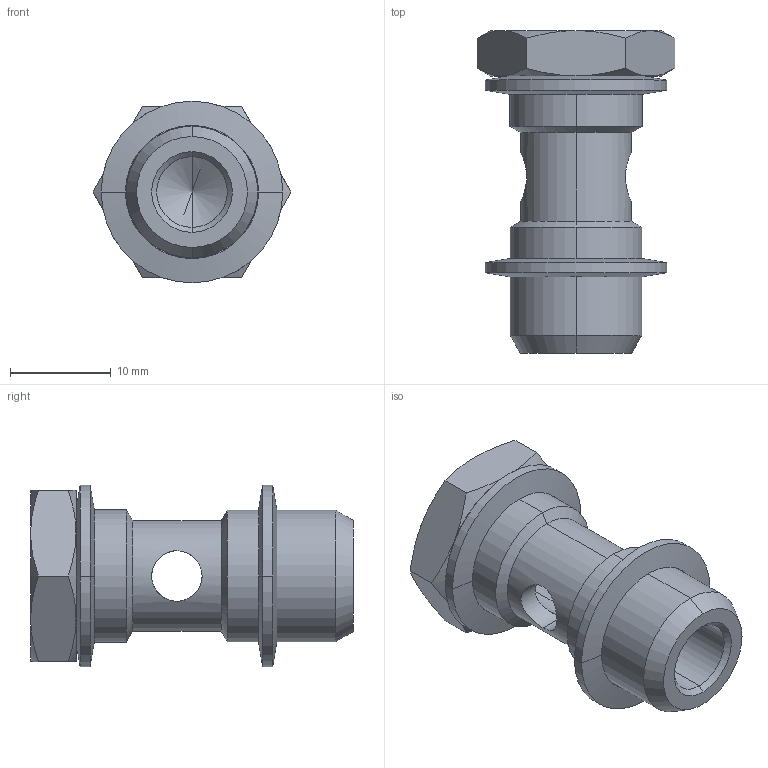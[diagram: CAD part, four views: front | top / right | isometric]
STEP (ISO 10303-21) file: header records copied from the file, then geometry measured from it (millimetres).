
FILE_DESCRIPTION (( 'STEP AP214' ), '1' );
FILE_NAME ('5141000014.step', '2012-10-01T17:05:41', ( '' ), ( '' ), 'SwSTEP 2.0', 'SolidWorks 2012', '' );
FILE_SCHEMA (( 'AUTOMOTIVE_DESIGN' ));
Length unit declared in the file: millimetre
Products named in the file (1): 5141000014
Bounding box: 19.63 x 32 x 18 mm (x, y, z)
Volume: 3595.4 mm3; surface area: 3150 mm2
Topology: 3 solids, 3 shells, 101 faces, 228 edges, 137 vertices
Faces by surface type: cylinder 38, plane 33, cone 30
Entity records: 4307 total; most frequent: CARTESIAN_POINT 849, DIRECTION 514, ORIENTED_EDGE 452, EDGE_CURVE 226, AXIS2_PLACEMENT_3D 218, VERTEX_POINT 137, CIRCLE 116, EDGE_LOOP 115
